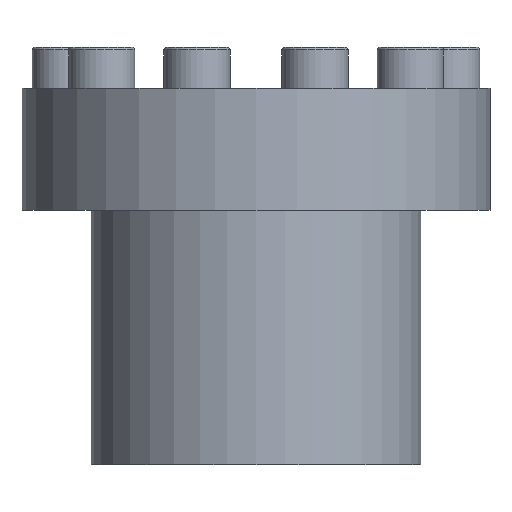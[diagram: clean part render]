
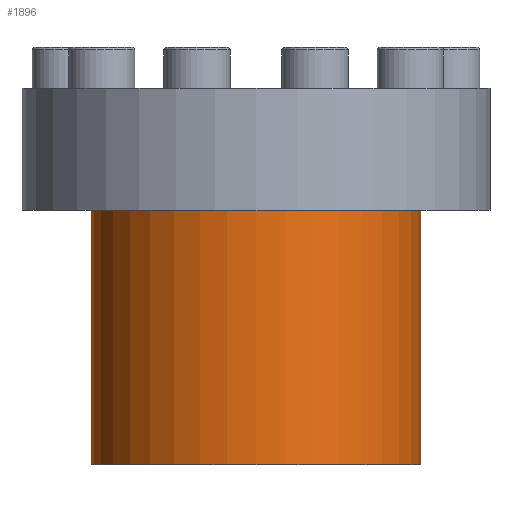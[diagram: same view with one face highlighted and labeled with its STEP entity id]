
A CAD part, front view. The second image highlights one B-rep face of the part: STEP entity #1896.
In plain terms, the highlighted cylindrical face has radius 32.4 mm (diameter 64.8 mm), a partial arc.
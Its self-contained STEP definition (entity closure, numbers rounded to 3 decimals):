
#78 = VERTEX_POINT ( 'NONE', #3680 ) ;
#293 = AXIS2_PLACEMENT_3D ( 'NONE', #1338, #720, #1019 ) ;
#529 = CARTESIAN_POINT ( 'NONE',  ( -32.4, 0., 0. ) ) ;
#603 = CIRCLE ( 'NONE', #685, 32.4 ) ;
#646 = VECTOR ( 'NONE', #1630, 1000. ) ;
#685 = AXIS2_PLACEMENT_3D ( 'NONE', #3032, #1062, #1305 ) ;
#720 = DIRECTION ( 'NONE',  ( 0., 0., 1. ) ) ;
#802 = AXIS2_PLACEMENT_3D ( 'NONE', #2201, #3350, #3064 ) ;
#1005 = ORIENTED_EDGE ( 'NONE', *, *, #2532, .T. ) ;
#1019 = DIRECTION ( 'NONE',  ( 1., 0., 0. ) ) ;
#1062 = DIRECTION ( 'NONE',  ( 0., 0., 1. ) ) ;
#1305 = DIRECTION ( 'NONE',  ( 1., 0., 0. ) ) ;
#1338 = CARTESIAN_POINT ( 'NONE',  ( 0., 0., -24. ) ) ;
#1400 = VERTEX_POINT ( 'NONE', #2728 ) ;
#1455 = FACE_OUTER_BOUND ( 'NONE', #3208, .T. ) ;
#1456 = LINE ( 'NONE', #2529, #646 ) ;
#1584 = LINE ( 'NONE', #529, #3190 ) ;
#1630 = DIRECTION ( 'NONE',  ( 0., 0., 1. ) ) ;
#1896 = ADVANCED_FACE ( 'NONE', ( #1455 ), #2654, .T. ) ;
#2002 = ORIENTED_EDGE ( 'NONE', *, *, #2441, .F. ) ;
#2018 = EDGE_CURVE ( 'NONE', #1400, #2651, #1584, .T. ) ;
#2201 = CARTESIAN_POINT ( 'NONE',  ( 0., 0., 0. ) ) ;
#2345 = ORIENTED_EDGE ( 'NONE', *, *, #2477, .T. ) ;
#2441 = EDGE_CURVE ( 'NONE', #2651, #2474, #3153, .T. ) ;
#2474 = VERTEX_POINT ( 'NONE', #2751 ) ;
#2477 = EDGE_CURVE ( 'NONE', #1400, #78, #603, .T. ) ;
#2529 = CARTESIAN_POINT ( 'NONE',  ( 32.4, 0., 0. ) ) ;
#2532 = EDGE_CURVE ( 'NONE', #78, #2474, #1456, .T. ) ;
#2651 = VERTEX_POINT ( 'NONE', #3110 ) ;
#2654 = CYLINDRICAL_SURFACE ( 'NONE', #802, 32.4 ) ;
#2728 = CARTESIAN_POINT ( 'NONE',  ( -32.4, 0., -74. ) ) ;
#2751 = CARTESIAN_POINT ( 'NONE',  ( 32.4, 0., -24. ) ) ;
#3032 = CARTESIAN_POINT ( 'NONE',  ( 0., 0., -74. ) ) ;
#3064 = DIRECTION ( 'NONE',  ( 1., 0., 0. ) ) ;
#3110 = CARTESIAN_POINT ( 'NONE',  ( -32.4, 0., -24. ) ) ;
#3153 = CIRCLE ( 'NONE', #293, 32.4 ) ;
#3190 = VECTOR ( 'NONE', #3416, 1000. ) ;
#3208 = EDGE_LOOP ( 'NONE', ( #3308, #2345, #1005, #2002 ) ) ;
#3308 = ORIENTED_EDGE ( 'NONE', *, *, #2018, .F. ) ;
#3350 = DIRECTION ( 'NONE',  ( 0., 0., 1. ) ) ;
#3416 = DIRECTION ( 'NONE',  ( 0., 0., 1. ) ) ;
#3680 = CARTESIAN_POINT ( 'NONE',  ( 32.4, 0., -74. ) ) ;
